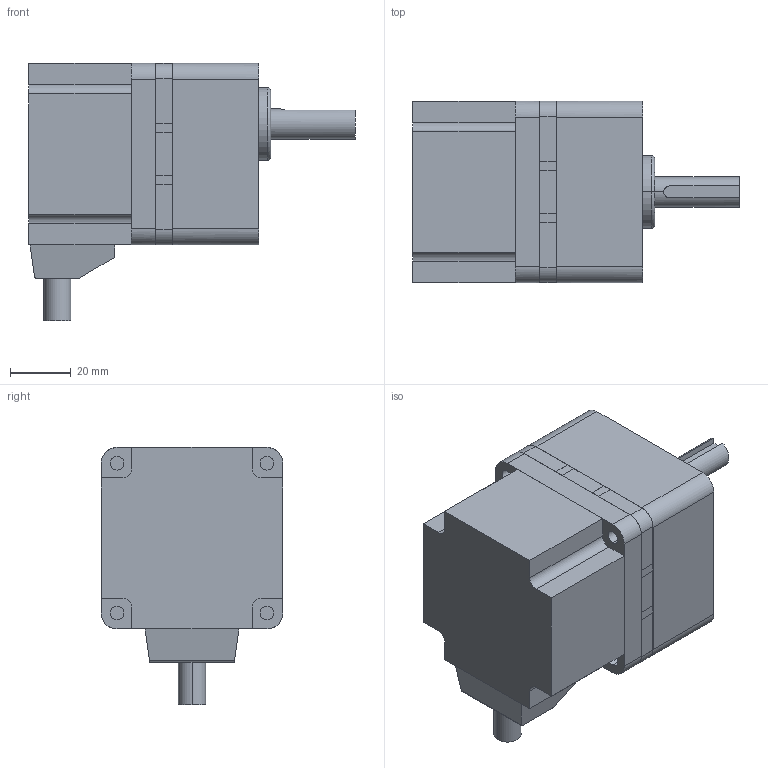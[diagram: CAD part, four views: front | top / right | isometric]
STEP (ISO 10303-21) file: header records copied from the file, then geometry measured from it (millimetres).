
FILE_DESCRIPTION(('starvars output'),'2;1');
FILE_NAME('BLH230KC-5.stp','15:07:14 2015/05/11',( 'Thomas Industrial Network Germany GmbH'),( 'Thomas Industrial Network Germany GmbH'),'unknown preprocess','ACIS' ,'unknown authorization');
FILE_SCHEMA(('AUTOMOTIVE_DESIGN_CC2 {UNKNOWN IMPLEMENTATION LEVEL}'));
Length unit declared in the file: millimetre
Products named in the file (1): PRODUCT_ID_386
Bounding box: 108 x 60 x 85 mm (x, y, z)
Volume: 264876.9 mm3; surface area: 31990 mm2
Topology: 2 solids, 2 shells, 138 faces, 354 edges, 235 vertices
Faces by surface type: plane 91, cylinder 45, torus 2
Entity records: 5147 total; most frequent: CARTESIAN_POINT 711, ORIENTED_EDGE 708, DIRECTION 624, EDGE_CURVE 354, VECTOR 256, LINE 256, VERTEX_POINT 235, AXIS2_PLACEMENT_3D 184
